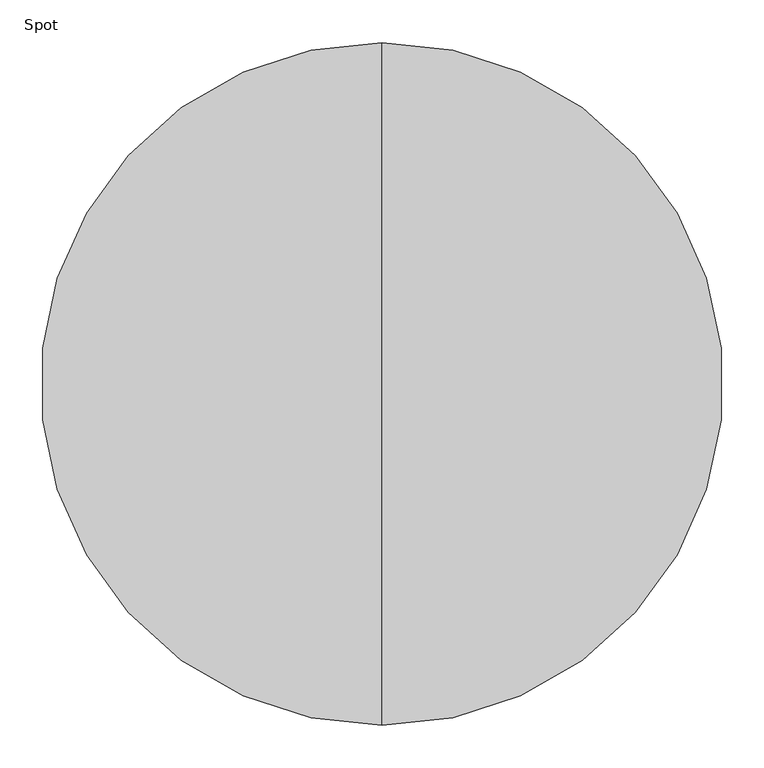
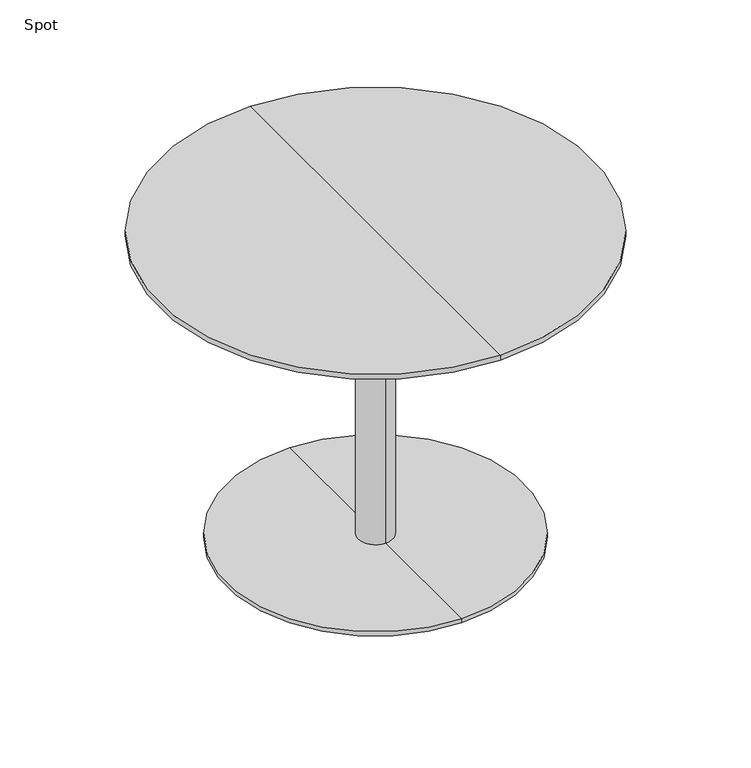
"""IFC4 building model written with IfcOpenShell, lengths in millimetres: furniture geometry, Spot : Bø80x60."""

from ifc_helpers import new_model, si_unit, frame, origin, place, context, project, spatial, polyline, circle_curve, source, transform, mapped, element, save
from ifc_brep_helpers import plane_surface, cylinder_surface, revolved_surface, advanced_brep


def spot_0f59d7b9(model_context):
    return source(origin(), model_context, "Body", "AdvancedBrep", [
        advanced_brep(
        [(0.0, -400.0, 600.0), (0.0, 400.0, 600.0), (0.0, 0.0, 600.0), (0.0, 400.0, 590.25), (0.0, -400.0, 590.25), (0.0, 0.0, 578.0), (0.0, -354.2823776, 578.0), (0.0, 354.2823776, 578.0)],
        [
            (0, 1, circle_curve(frame((0.0, 0.0, 600.0), z_axis=(0.0, 0.0, 1.0), x_axis=(0.0, -1.0, 0.0)), 400.0)),
            (1, 2),
            (2, 0),
            (3, 4, circle_curve(frame((0.0, 0.0, 590.25), z_axis=(0.0, 0.0, 1.0), x_axis=(0.0, -1.0, 0.0)), 400.0)),
            (4, 0),
            (0, 1, circle_curve(frame((0.0, 0.0, 600.0), z_axis=(0.0, 0.0, -1.0), x_axis=(0.0, -1.0, 0.0)), 400.0)),
            (1, 3),
            (5, 6),
            (6, 7, circle_curve(frame((0.0, 0.0, 578.0), z_axis=(0.0, 0.0, -1.0), x_axis=(0.0, -1.0, 0.0)), 354.2823776)),
            (7, 5),
            (7, 6, circle_curve(frame((0.0, 0.0, 578.0), z_axis=(0.0, 0.0, -1.0), x_axis=(0.0, -1.0, 0.0)), 354.2823776)),
            (4, 3, circle_curve(frame((0.0, 0.0, 590.25), z_axis=(0.0, 0.0, 1.0), x_axis=(0.0, -1.0, 0.0)), 400.0)),
            (6, 4),
            (3, 7),
        ],
        [
            plane_surface(frame((0.0, 0.0, 600.0), z_axis=(0.0, 0.0, 1.0), x_axis=(0.0, -1.0, 0.0))),
            cylinder_surface(frame((0.0, 0.0, 680.0), z_axis=(0.0, 0.0, -1.0), x_axis=(0.0, -1.0, 0.0)), 400.0),
            plane_surface(frame((0.0, 0.0, 578.0), z_axis=(0.0, 0.0, -1.0), x_axis=(0.0, -1.0, 0.0))),
            revolved_surface(polyline([(0.0, -400.0, 590.25), (0.0, -354.2823776, 578.0)]), (0.0, 0.0, 680.0), (0.0, 0.0, -1.0)),
        ],
        [
            (0, [[1, 2, 3]]),
            (1, [[4, 5, 6, 7]]),
            (2, [[8, 9, 10]]),
            (2, [[-10, 11, -8]]),
            (0, [[-6, -3, -2]]),
            (1, [[12, -7, -1, -5]]),
            (3, [[-9, 13, -4, 14]]),
            (3, [[-11, -14, -12, -13]]),
        ],
    ),
        advanced_brep(
        [(0.0, 32.0, 10.0), (0.0, -32.0, 10.0), (0.0, -32.0, 547.406916), (0.0, 32.0, 547.406916), (0.0, 275.0, 10.0), (0.0, -275.0, 10.0), (0.0, 275.0, 2.0), (0.0, -275.0, 2.0), (0.0, 0.0, 2.0), (0.0, 150.0, 578.0), (0.0, -150.0, 578.0), (0.0, 0.0, 578.0), (0.0, 150.0, 566.7213673), (0.0, -150.0, 566.7213673)],
        [
            (0, 1, circle_curve(frame((0.0, 0.0, 10.0), z_axis=(0.0, 0.0, 1.0), x_axis=(0.0, -1.0, 0.0)), 32.0)),
            (1, 2),
            (2, 3, circle_curve(frame((0.0, 0.0, 547.406916), z_axis=(0.0, 0.0, -1.0), x_axis=(0.0, -1.0, 0.0)), 32.0)),
            (3, 0),
            (1, 0, circle_curve(frame((0.0, 0.0, 10.0), z_axis=(0.0, 0.0, 1.0), x_axis=(0.0, -1.0, 0.0)), 32.0)),
            (3, 2, circle_curve(frame((0.0, 0.0, 547.406916), z_axis=(0.0, 0.0, -1.0), x_axis=(0.0, -1.0, 0.0)), 32.0)),
            (4, 5, circle_curve(frame((0.0, 0.0, 10.0), z_axis=(0.0, 0.0, 1.0), x_axis=(0.0, -1.0, 0.0)), 275.0)),
            (5, 1),
            (0, 4),
            (5, 4, circle_curve(frame((0.0, 0.0, 10.0), z_axis=(0.0, 0.0, 1.0), x_axis=(0.0, -1.0, 0.0)), 275.0)),
            (6, 7, circle_curve(frame((0.0, 0.0, 2.0), z_axis=(0.0, 0.0, 1.0), x_axis=(0.0, -1.0, 0.0)), 275.0)),
            (7, 5),
            (4, 6),
            (7, 6, circle_curve(frame((0.0, 0.0, 2.0), z_axis=(0.0, 0.0, 1.0), x_axis=(0.0, -1.0, 0.0)), 275.0)),
            (8, 7),
            (6, 8),
            (9, 10, circle_curve(frame((0.0, 0.0, 578.0), z_axis=(0.0, 0.0, 1.0), x_axis=(0.0, -1.0, 0.0)), 150.0)),
            (10, 11),
            (11, 9),
            (10, 9, circle_curve(frame((0.0, 0.0, 578.0), z_axis=(0.0, 0.0, 1.0), x_axis=(0.0, -1.0, 0.0)), 150.0)),
            (12, 13, circle_curve(frame((0.0, 0.0, 566.7213673), z_axis=(0.0, 0.0, 1.0), x_axis=(0.0, -1.0, 0.0)), 150.0)),
            (13, 10),
            (9, 12),
            (13, 12, circle_curve(frame((0.0, 0.0, 566.7213673), z_axis=(0.0, 0.0, 1.0), x_axis=(0.0, -1.0, 0.0)), 150.0)),
            (2, 13),
            (12, 3),
        ],
        [
            cylinder_surface(frame((0.0, 0.0, 940.0), z_axis=(0.0, 0.0, -1.0), x_axis=(0.0, -1.0, 0.0)), 32.0),
            plane_surface(frame((0.0, 0.0, 10.0), z_axis=(0.0, 0.0, 1.0), x_axis=(0.0, -1.0, 0.0))),
            cylinder_surface(frame((0.0, 0.0, 940.0), z_axis=(0.0, 0.0, -1.0), x_axis=(0.0, -1.0, 0.0)), 275.0),
            plane_surface(frame((0.0, 0.0, 2.0), z_axis=(0.0, 0.0, -1.0), x_axis=(0.0, -1.0, 0.0))),
            plane_surface(frame((0.0, 0.0, 578.0), z_axis=(0.0, 0.0, 1.0), x_axis=(0.0, -1.0, 0.0))),
            cylinder_surface(frame((0.0, 0.0, 940.0), z_axis=(0.0, 0.0, -1.0), x_axis=(0.0, -1.0, 0.0)), 150.0),
            revolved_surface(polyline([(0.0, -150.0, 566.7213673), (0.0, -32.0, 547.406916)]), (0.0, 0.0, 940.0), (0.0, 0.0, -1.0)),
        ],
        [
            (0, [[1, 2, 3, 4]]),
            (0, [[5, -4, 6, -2]]),
            (1, [[7, 8, -1, 9]]),
            (1, [[10, -9, -5, -8]]),
            (2, [[11, 12, -7, 13]]),
            (2, [[14, -13, -10, -12]]),
            (3, [[15, -11, 16]]),
            (3, [[-16, -14, -15]]),
            (4, [[17, 18, 19]]),
            (4, [[20, -19, -18]]),
            (5, [[21, 22, -17, 23]]),
            (5, [[24, -23, -20, -22]]),
            (6, [[-3, 25, -21, 26]]),
            (6, [[-6, -26, -24, -25]]),
        ],
    ),
    ])


if __name__ == "__main__":
    model = new_model("IFC4")
    model_context = context("Model", 3, world=origin())
    ifc_project = project(units=[si_unit("LENGTHUNIT", "METRE", prefix="MILLI")], contexts=[model_context])
    site = spatial("IfcSite", under=ifc_project)
    building = spatial("IfcBuilding", under=site)
    placement = place(None, origin())
    spot_shape = spot_0f59d7b9(model_context)
    element("IfcFurniture", 1, ObjectType="Spot : Bø80x60", at=placement, inside=building, context=model_context, shape_type="MappedRepresentation", body=[
        mapped(spot_shape, transform((0.0, 0.0, 0.0), x_axis=(1.0, 0.0, 0.0), y_axis=(0.0, 1.0, 0.0), z_axis=(0.0, 0.0, 1.0))),
    ])
    save(model, "model.ifc")
